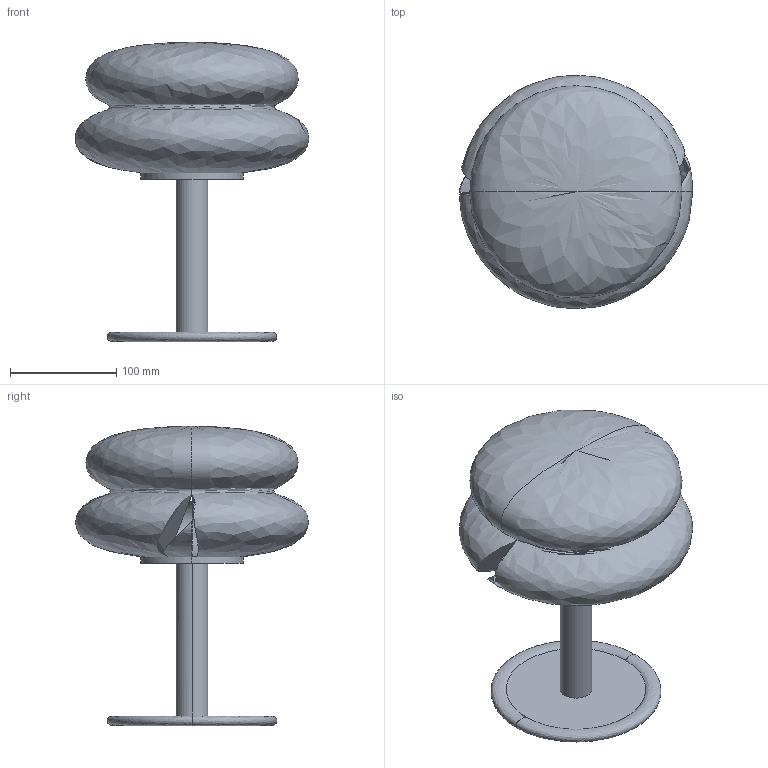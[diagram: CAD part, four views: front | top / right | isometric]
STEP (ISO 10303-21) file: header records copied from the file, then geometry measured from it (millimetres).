
FILE_DESCRIPTION(/* description */ (''),/* implementation_level */ '2;1');
FILE_NAME(/* name */ 'ILKW_SNOWMAN22 V2_Table_3D',/* time_stamp */ '2026-08-25T17:42:31+09:00',/* author */ (''),/* organization */ (''),/* preprocessor_version */ 'ST-DEVELOPER v19.2',/* originating_system */ 'Rhino 8.21',/* authorisation */ '');
FILE_SCHEMA (('CONFIG_CONTROL_DESIGN'));
Length unit declared in the file: millimetre
Products named in the file (1): Document
Bounding box: 219.99 x 220 x 282 mm (x, y, z)
Volume: 4403903.8 mm3; surface area: 197549.1 mm2
Topology: 1 solids, 1 shells, 12 faces, 24 edges, 13 vertices
Faces by surface type: bspline 6, plane 4, cylinder 2
Entity records: 743 total; most frequent: CARTESIAN_POINT 467, ORIENTED_EDGE 44, DIRECTION 28, EDGE_CURVE 22, AXIS2_PLACEMENT_3D 17, EDGE_LOOP 13, VERTEX_POINT 13, ADVANCED_FACE 12
